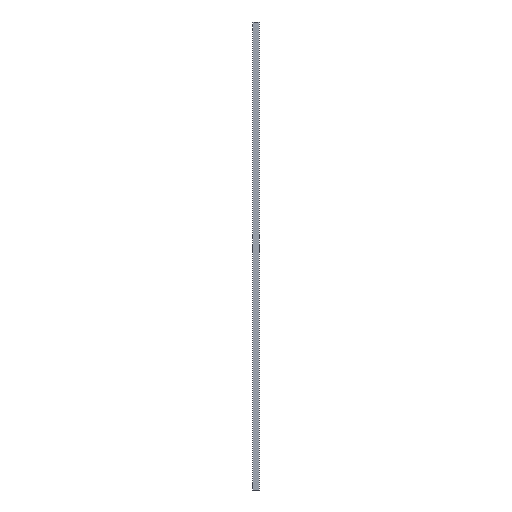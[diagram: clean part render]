
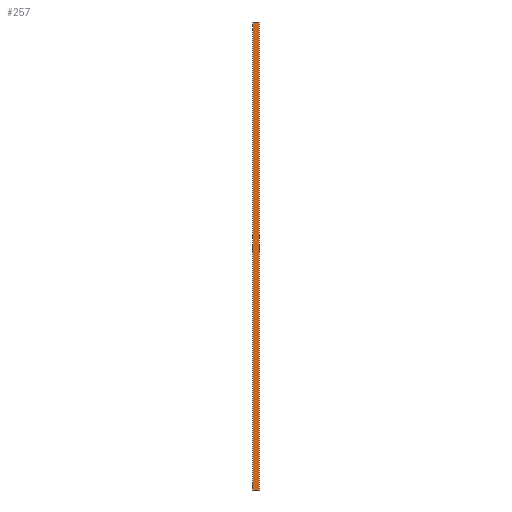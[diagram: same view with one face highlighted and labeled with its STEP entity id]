
A CAD part, left-side view. The second image highlights one B-rep face of the part: STEP entity #257.
In plain terms, the highlighted planar face has unit normal (-1, 0, 0).
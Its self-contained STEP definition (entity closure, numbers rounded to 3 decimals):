
#10 = CARTESIAN_POINT ( 'NONE',  ( -8., 0., 0. ) ) ;
#20 = EDGE_CURVE ( 'NONE', #308, #507, #1386, .T. ) ;
#35 = CARTESIAN_POINT ( 'NONE',  ( -8., 3.2, 0. ) ) ;
#41 = VECTOR ( 'NONE', #1005, 1000. ) ;
#61 = AXIS2_PLACEMENT_3D ( 'NONE', #613, #627, #82 ) ;
#80 = VERTEX_POINT ( 'NONE', #1366 ) ;
#82 = DIRECTION ( 'NONE',  ( 0., 0., 1. ) ) ;
#83 = EDGE_CURVE ( 'NONE', #756, #804, #481, .T. ) ;
#94 = EDGE_CURVE ( 'NONE', #983, #609, #1226, .T. ) ;
#100 = DIRECTION ( 'NONE',  ( 0., 1., 0. ) ) ;
#113 = CARTESIAN_POINT ( 'NONE',  ( -8., 3.2, 879. ) ) ;
#115 = CARTESIAN_POINT ( 'NONE',  ( -8., 0., 879. ) ) ;
#148 = DIRECTION ( 'NONE',  ( 0., 0., -1. ) ) ;
#192 = VERTEX_POINT ( 'NONE', #749 ) ;
#210 = EDGE_CURVE ( 'NONE', #983, #80, #639, .T. ) ;
#257 = ADVANCED_FACE ( 'NONE', ( #744 ), #1156, .T. ) ;
#259 = ORIENTED_EDGE ( 'NONE', *, *, #1292, .F. ) ;
#295 = ORIENTED_EDGE ( 'NONE', *, *, #876, .F. ) ;
#299 = VECTOR ( 'NONE', #878, 1000. ) ;
#300 = VECTOR ( 'NONE', #899, 1000. ) ;
#303 = DIRECTION ( 'NONE',  ( 0., 1., 0. ) ) ;
#308 = VERTEX_POINT ( 'NONE', #113 ) ;
#367 = EDGE_CURVE ( 'NONE', #80, #804, #1215, .T. ) ;
#369 = CARTESIAN_POINT ( 'NONE',  ( -8., 0., 0. ) ) ;
#371 = ORIENTED_EDGE ( 'NONE', *, *, #451, .T. ) ;
#382 = DIRECTION ( 'NONE',  ( 0., -1., 0. ) ) ;
#391 = VECTOR ( 'NONE', #100, 1000. ) ;
#420 = CARTESIAN_POINT ( 'NONE',  ( -8., 12.5, 879. ) ) ;
#438 = CARTESIAN_POINT ( 'NONE',  ( -8., 0., 879. ) ) ;
#451 = EDGE_CURVE ( 'NONE', #507, #756, #1222, .T. ) ;
#481 = LINE ( 'NONE', #600, #994 ) ;
#507 = VERTEX_POINT ( 'NONE', #1089 ) ;
#532 = ORIENTED_EDGE ( 'NONE', *, *, #83, .T. ) ;
#600 = CARTESIAN_POINT ( 'NONE',  ( -8., 12.5, 879. ) ) ;
#609 = VERTEX_POINT ( 'NONE', #369 ) ;
#613 = CARTESIAN_POINT ( 'NONE',  ( -8., 0., 879. ) ) ;
#627 = DIRECTION ( 'NONE',  ( -1., 0., 0. ) ) ;
#639 = LINE ( 'NONE', #1067, #1065 ) ;
#647 = VECTOR ( 'NONE', #382, 1000. ) ;
#728 = VECTOR ( 'NONE', #303, 1000. ) ;
#744 = FACE_OUTER_BOUND ( 'NONE', #1413, .T. ) ;
#749 = CARTESIAN_POINT ( 'NONE',  ( -8., 0., 879. ) ) ;
#756 = VERTEX_POINT ( 'NONE', #420 ) ;
#765 = LINE ( 'NONE', #438, #300 ) ;
#804 = VERTEX_POINT ( 'NONE', #884 ) ;
#876 = EDGE_CURVE ( 'NONE', #192, #609, #765, .T. ) ;
#878 = DIRECTION ( 'NONE',  ( 0., 1., 0. ) ) ;
#884 = CARTESIAN_POINT ( 'NONE',  ( -8., 12.5, 0. ) ) ;
#899 = DIRECTION ( 'NONE',  ( 0., 0., -1. ) ) ;
#914 = ORIENTED_EDGE ( 'NONE', *, *, #94, .T. ) ;
#924 = CARTESIAN_POINT ( 'NONE',  ( -8., 0., 0. ) ) ;
#948 = DIRECTION ( 'NONE',  ( 0., 1., 0. ) ) ;
#979 = ORIENTED_EDGE ( 'NONE', *, *, #210, .F. ) ;
#983 = VERTEX_POINT ( 'NONE', #35 ) ;
#994 = VECTOR ( 'NONE', #148, 1000. ) ;
#1005 = DIRECTION ( 'NONE',  ( 0., -1., 0. ) ) ;
#1052 = ORIENTED_EDGE ( 'NONE', *, *, #20, .T. ) ;
#1065 = VECTOR ( 'NONE', #948, 1000. ) ;
#1067 = CARTESIAN_POINT ( 'NONE',  ( -8., 0., 0. ) ) ;
#1089 = CARTESIAN_POINT ( 'NONE',  ( -8., 9.3, 879. ) ) ;
#1094 = LINE ( 'NONE', #115, #41 ) ;
#1156 = PLANE ( 'NONE',  #61 ) ;
#1215 = LINE ( 'NONE', #10, #299 ) ;
#1222 = LINE ( 'NONE', #1310, #391 ) ;
#1226 = LINE ( 'NONE', #924, #647 ) ;
#1265 = ORIENTED_EDGE ( 'NONE', *, *, #367, .F. ) ;
#1278 = CARTESIAN_POINT ( 'NONE',  ( -8., 0., 879. ) ) ;
#1292 = EDGE_CURVE ( 'NONE', #308, #192, #1094, .T. ) ;
#1310 = CARTESIAN_POINT ( 'NONE',  ( -8., 12.5, 879. ) ) ;
#1366 = CARTESIAN_POINT ( 'NONE',  ( -8., 9.3, 0. ) ) ;
#1386 = LINE ( 'NONE', #1278, #728 ) ;
#1413 = EDGE_LOOP ( 'NONE', ( #979, #914, #295, #259, #1052, #371, #532, #1265 ) ) ;
